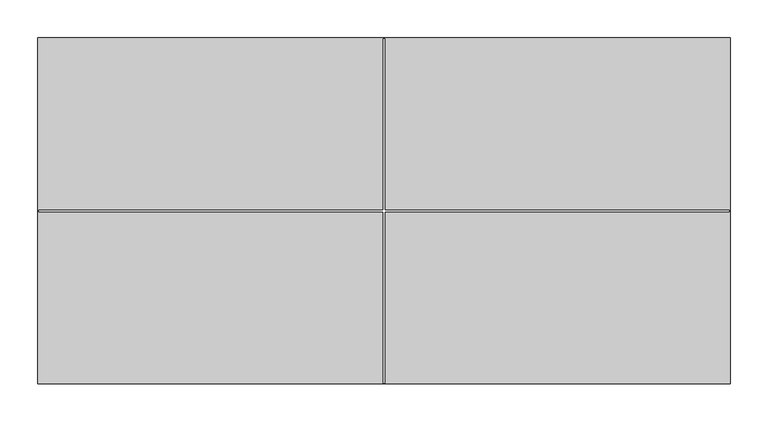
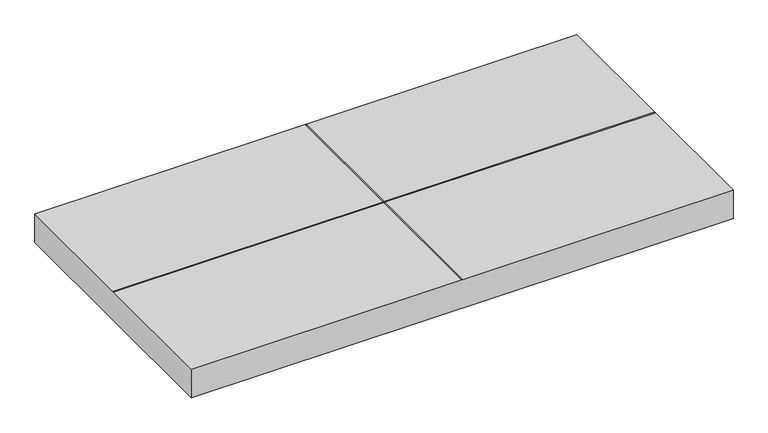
"""IFC4 building model written with IfcOpenShell, lengths in millimetres: furniture geometry, Steelcase - Universal Storage - Cushion Top - for Lateral File : Flush Steel Front - 18D x 36W."""

from ifc_helpers import new_model, si_unit, frame, origin, place, context, project, spatial, polyline, outline, extrude, source, transform, mapped, element, save


def furniture_8ee20cc7(model_context):
    return source(origin(), model_context, "Body", "SweptSolid", [
        extrude(outline(polyline([(914.4, 0.0), (914.4, -457.2), (0.0, -457.2), (0.0, 0.0), (914.4, 0.0)]), holes=[polyline([(0.889, -227.711), (0.889, -229.489), (456.311, -229.489), (456.311, -456.3110015), (458.089, -456.3110015), (458.089, -229.489), (913.5109651, -229.489), (913.5109651, -227.711), (458.089, -227.711), (458.089, -0.889), (456.311, -0.889), (456.311, -227.711), (0.889, -227.711)])]), frame((0.0, 0.0, 533.4), z_axis=(0.0, 0.0, 1.0), x_axis=(1.0, 0.0, 0.0)), (0.0, 0.0, 1.0), 50.7999971),
    ])


if __name__ == "__main__":
    model = new_model("IFC4")
    model_context = context("Model", 3, world=origin())
    ifc_project = project(units=[si_unit("LENGTHUNIT", "METRE", prefix="MILLI")], contexts=[model_context])
    site = spatial("IfcSite", under=ifc_project)
    building = spatial("IfcBuilding", under=site)
    placement = place(None, origin())
    furniture_shape = furniture_8ee20cc7(model_context)
    element("IfcFurniture", 1, ObjectType="Steelcase - Universal Storage - Cushion Top - for Lateral File : Flush Steel Front - 18D x 36W", at=placement, inside=building, context=model_context, shape_type="MappedRepresentation", body=[
        mapped(furniture_shape, transform((0.0, 0.0, 0.0), x_axis=(1.0, 0.0, 0.0), y_axis=(0.0, 1.0, 0.0), z_axis=(0.0, 0.0, 1.0))),
    ])
    save(model, "model.ifc")
